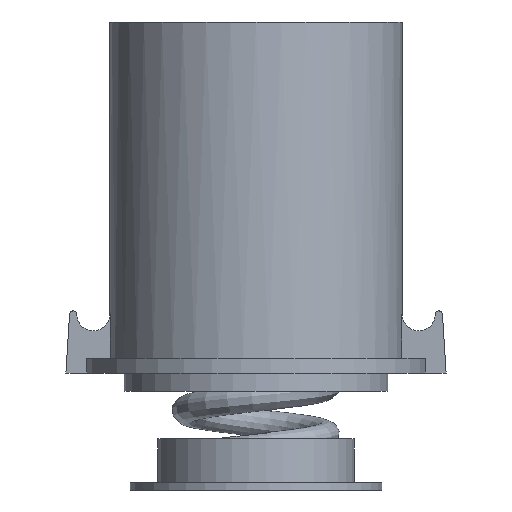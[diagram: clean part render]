
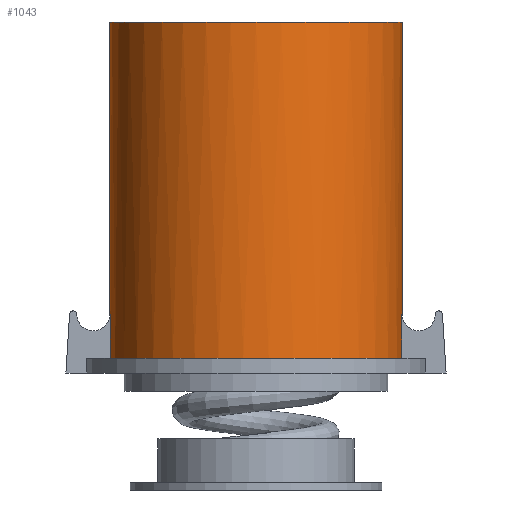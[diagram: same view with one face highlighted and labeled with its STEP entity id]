
A CAD part, front view. The second image highlights one B-rep face of the part: STEP entity #1043.
In plain terms, the highlighted cylindrical face has radius 63.5 mm (diameter 127 mm), a full revolution.
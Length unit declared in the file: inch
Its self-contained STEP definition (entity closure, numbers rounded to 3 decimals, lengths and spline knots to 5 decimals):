
#103=FACE_BOUND('',#241,.T.);
#165=FACE_OUTER_BOUND('',#240,.T.);
#240=EDGE_LOOP('',(#832,#833,#834,#835,#836,#837,#838,#839,#840,#841));
#241=EDGE_LOOP('',(#842));
#329=CIRCLE('',#1115,2.5);
#330=CIRCLE('',#1117,2.5);
#335=CIRCLE('',#1128,2.5);
#336=CIRCLE('',#1130,2.5);
#342=CIRCLE('',#1143,2.5);
#343=CIRCLE('',#1145,2.5);
#344=CIRCLE('',#1146,2.5);
#389=LINE('',#1596,#449);
#399=LINE('',#1628,#459);
#406=LINE('',#1643,#466);
#419=LINE('',#1681,#479);
#449=VECTOR('',#1260,0.75);
#459=VECTOR('',#1288,0.75);
#466=VECTOR('',#1303,0.75);
#479=VECTOR('',#1340,0.75);
#512=VERTEX_POINT('',#1593);
#513=VERTEX_POINT('',#1595);
#518=VERTEX_POINT('',#1607);
#519=VERTEX_POINT('',#1608);
#526=VERTEX_POINT('',#1627);
#529=VERTEX_POINT('',#1640);
#530=VERTEX_POINT('',#1642);
#535=VERTEX_POINT('',#1654);
#536=VERTEX_POINT('',#1655);
#543=VERTEX_POINT('',#1680);
#544=VERTEX_POINT('',#1692);
#611=EDGE_CURVE('',#513,#512,#389,.T.);
#617=EDGE_CURVE('',#518,#519,#329,.T.);
#620=EDGE_CURVE('',#519,#513,#330,.T.);
#627=EDGE_CURVE('',#526,#518,#399,.T.);
#634=EDGE_CURVE('',#530,#529,#406,.T.);
#640=EDGE_CURVE('',#535,#536,#335,.T.);
#643=EDGE_CURVE('',#536,#530,#336,.T.);
#653=EDGE_CURVE('',#543,#535,#419,.T.);
#658=EDGE_CURVE('',#529,#526,#342,.T.);
#659=EDGE_CURVE('',#512,#543,#343,.T.);
#660=EDGE_CURVE('',#544,#544,#344,.T.);
#832=ORIENTED_EDGE('',*,*,#611,.T.);
#833=ORIENTED_EDGE('',*,*,#659,.T.);
#834=ORIENTED_EDGE('',*,*,#653,.T.);
#835=ORIENTED_EDGE('',*,*,#640,.T.);
#836=ORIENTED_EDGE('',*,*,#643,.T.);
#837=ORIENTED_EDGE('',*,*,#634,.T.);
#838=ORIENTED_EDGE('',*,*,#658,.T.);
#839=ORIENTED_EDGE('',*,*,#627,.T.);
#840=ORIENTED_EDGE('',*,*,#617,.T.);
#841=ORIENTED_EDGE('',*,*,#620,.T.);
#842=ORIENTED_EDGE('',*,*,#660,.F.);
#1005=CYLINDRICAL_SURFACE('',#1144,2.5);
#1043=ADVANCED_FACE('',(#165,#103),#1005,.T.);
#1115=AXIS2_PLACEMENT_3D('',#1609,#1270,#1271);
#1117=AXIS2_PLACEMENT_3D('',#1614,#1276,#1277);
#1128=AXIS2_PLACEMENT_3D('',#1656,#1313,#1314);
#1130=AXIS2_PLACEMENT_3D('',#1661,#1319,#1320);
#1143=AXIS2_PLACEMENT_3D('',#1689,#1354,#1355);
#1144=AXIS2_PLACEMENT_3D('',#1690,#1356,#1357);
#1145=AXIS2_PLACEMENT_3D('',#1691,#1358,#1359);
#1146=AXIS2_PLACEMENT_3D('',#1693,#1360,#1361);
#1260=DIRECTION('',(0.,0.,-1.));
#1270=DIRECTION('center_axis',(0.,0.,
1.));
#1271=DIRECTION('ref_axis',(1.,0.,0.));
#1276=DIRECTION('center_axis',(0.,0.,
1.));
#1277=DIRECTION('ref_axis',(1.,0.,0.));
#1288=DIRECTION('',(0.,0.,1.));
#1303=DIRECTION('',(0.,0.,-1.));
#1313=DIRECTION('center_axis',(0.,0.,
1.));
#1314=DIRECTION('ref_axis',(1.,0.,0.));
#1319=DIRECTION('center_axis',(0.,0.,
1.));
#1320=DIRECTION('ref_axis',(1.,0.,0.));
#1340=DIRECTION('',(0.,0.,1.));
#1354=DIRECTION('center_axis',(0.,0.,
1.));
#1355=DIRECTION('ref_axis',(1.,0.,0.));
#1356=DIRECTION('center_axis',(0.,0.,
-1.));
#1357=DIRECTION('ref_axis',(1.,0.,0.));
#1358=DIRECTION('center_axis',(0.,0.,
1.));
#1359=DIRECTION('ref_axis',(1.,0.,0.));
#1360=DIRECTION('center_axis',(0.,0.,
1.));
#1361=DIRECTION('ref_axis',(1.,0.,0.));
#1593=CARTESIAN_POINT('',(2.48747,0.25,2.25));
#1595=CARTESIAN_POINT('',(2.48747,0.25,3.));
#1596=CARTESIAN_POINT('',(2.48747,0.25,8.));
#1607=CARTESIAN_POINT('',(2.48747,-0.25,3.));
#1608=CARTESIAN_POINT('',(2.5,0.,3.));
#1609=CARTESIAN_POINT('Origin',(0.,0.,
3.));
#1614=CARTESIAN_POINT('Origin',(0.,0.,
3.));
#1627=CARTESIAN_POINT('',(2.48747,-0.25,2.25));
#1628=CARTESIAN_POINT('',(2.48747,-0.25,8.));
#1640=CARTESIAN_POINT('',(-2.48747,-0.25,2.25));
#1642=CARTESIAN_POINT('',(-2.48747,-0.25,3.));
#1643=CARTESIAN_POINT('',(-2.48747,-0.25,8.));
#1654=CARTESIAN_POINT('',(-2.48747,0.25,3.));
#1655=CARTESIAN_POINT('',(-2.5,0.,3.));
#1656=CARTESIAN_POINT('Origin',(0.,0.,
3.));
#1661=CARTESIAN_POINT('Origin',(0.,0.,
3.));
#1680=CARTESIAN_POINT('',(-2.48747,0.25,2.25));
#1681=CARTESIAN_POINT('',(-2.48747,0.25,8.));
#1689=CARTESIAN_POINT('Origin',(0.,0.,
2.25));
#1690=CARTESIAN_POINT('Origin',(0.,0.,
8.));
#1691=CARTESIAN_POINT('Origin',(0.,0.,
2.25));
#1692=CARTESIAN_POINT('',(-2.5,0.,8.));
#1693=CARTESIAN_POINT('Origin',(0.,0.,
8.));
